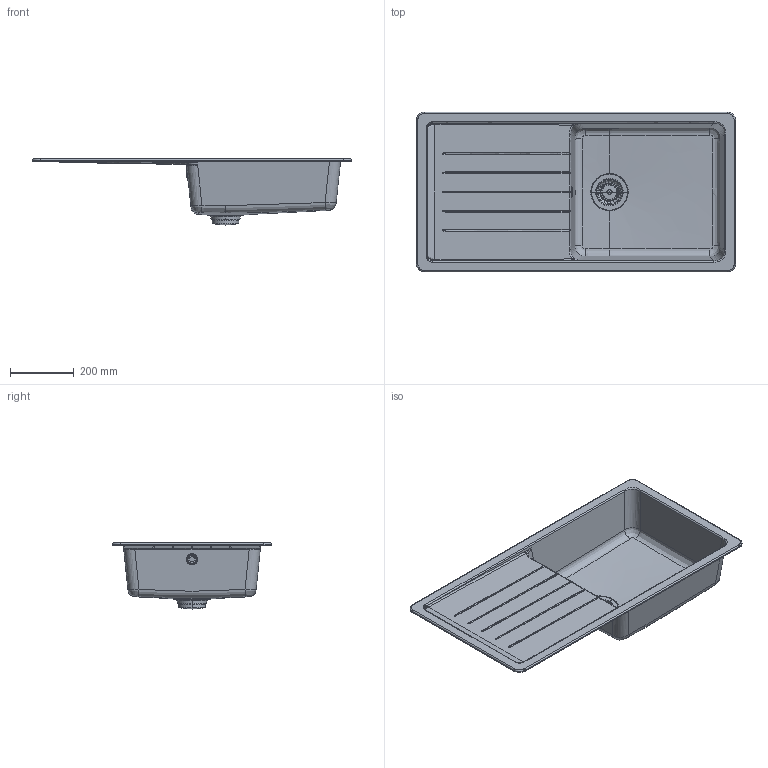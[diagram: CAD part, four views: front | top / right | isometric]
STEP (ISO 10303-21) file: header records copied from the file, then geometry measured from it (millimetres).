
FILE_DESCRIPTION(/* description */ (''),/* implementation_level */ '2;1');
FILE_NAME(/* name */ 'TOLD100L',/* time_stamp */ '2021-03-09T17:10:58+01:00',/* author */ (''),/* organization */ (''),/* preprocessor_version */ 'ST-DEVELOPER v15',/* originating_system */ '',/* authorisation */ '');
FILE_SCHEMA (('AUTOMOTIVE_DESIGN_CC2'));
Length unit declared in the file: millimetre
Products named in the file (1): Document
Bounding box: 1000 x 500 x 207.23 mm (x, y, z)
Volume: 32454.7 mm3; surface area: 801880.6 mm2
Topology: 4 solids, 5 shells, 326 faces, 956 edges, 590 vertices
Faces by surface type: bspline 310, plane 16
Entity records: 56166 total; most frequent: CARTESIAN_POINT 50857, ORIENTED_EDGE 1880, EDGE_CURVE 946, B_SPLINE_CURVE_WITH_KNOTS 633, VERTEX_POINT 590, EDGE_LOOP 413, ADVANCED_FACE 326, FACE_OUTER_BOUND 326
